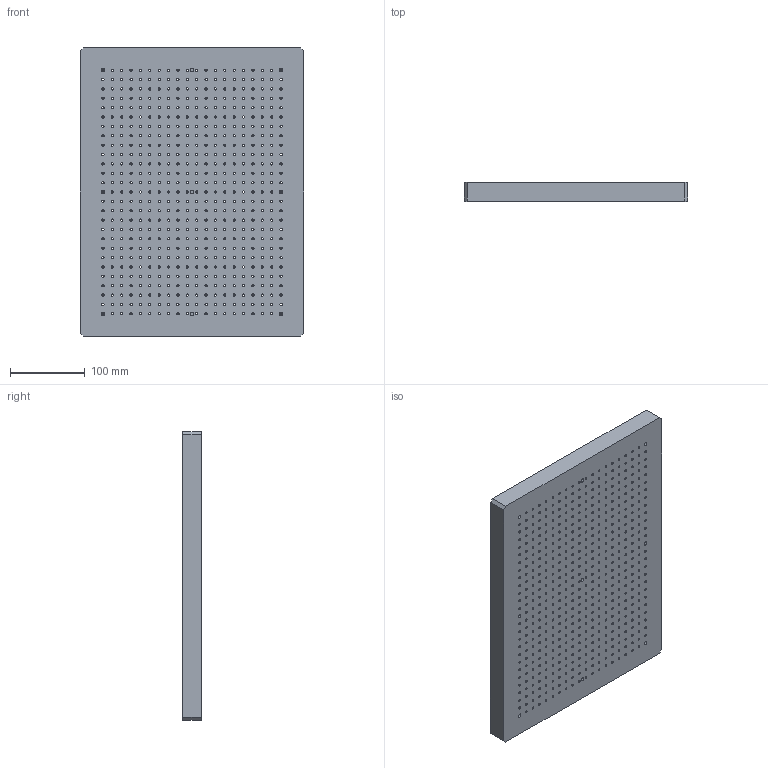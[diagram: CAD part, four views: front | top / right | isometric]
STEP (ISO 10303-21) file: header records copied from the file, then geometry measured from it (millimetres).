
FILE_DESCRIPTION(/* description */ (''),/* implementation_level */ '2;1');
FILE_NAME(/* name */ '',/* time_stamp */ '2025-12-02T11:31:30+08:00',/* author */ ('Q'),/* organization */ (''),/* preprocessor_version */ 'ST-DEVELOPER v20',/* originating_system */ 'Autodesk Inventor 2025',/* authorisation */ '');
FILE_SCHEMA (('AUTOMOTIVE_DESIGN { 1 0 10303 214 3 1 1 }'));
Length unit declared in the file: millimetre
Products named in the file (1): 光学平板V2.1
Bounding box: 297.5 x 25 x 385 mm (x, y, z)
Volume: 2765605.6 mm3; surface area: 383533.1 mm2
Topology: 1 solids, 1 shells, 568 faces, 1674 edges, 1119 vertices
Faces by surface type: cylinder 549, plane 19
Full cylindrical faces by diameter (mm): 3 x540, 4.917 x9
Entity records: 21830 total; most frequent: DIRECTION 3911, CARTESIAN_POINT 3359, ORIENTED_EDGE 3342, EDGE_CURVE 1671, AXIS2_PLACEMENT_3D 1669, EDGE_LOOP 1657, VERTEX_POINT 1114, CIRCLE 1100
